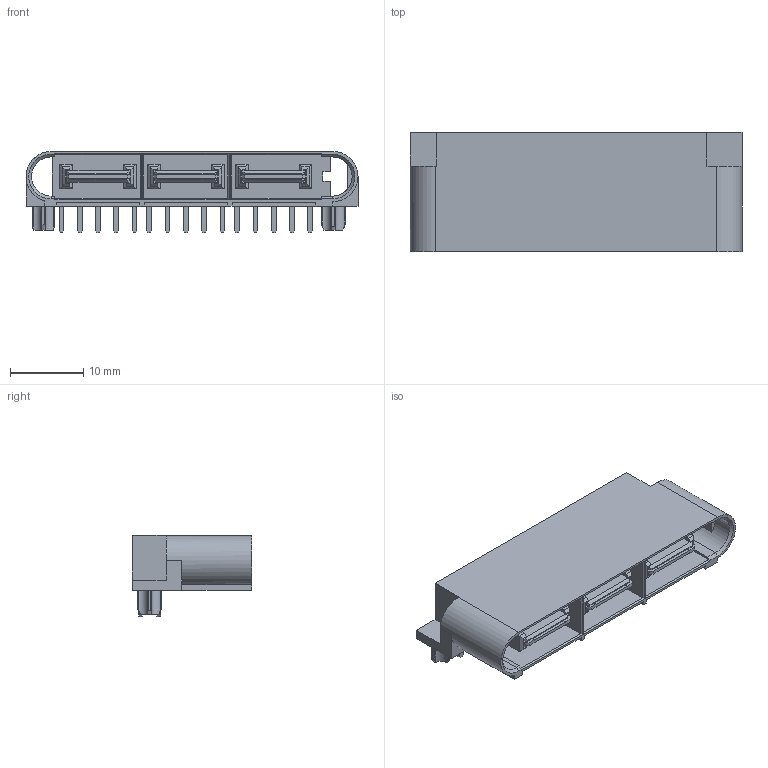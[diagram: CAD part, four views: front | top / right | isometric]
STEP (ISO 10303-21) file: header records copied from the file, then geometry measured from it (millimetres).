
FILE_DESCRIPTION((''),'2;1');
FILE_NAME('459856924','2020-10-29T',('me'),(''),'PRO/ENGINEER BY PARAMETRIC TECHNOLOGY CORPORATION, 2016010','PRO/ENGINEER BY PARAMETRIC TECHNOLOGY CORPORATION, 2016010','');
FILE_SCHEMA(('CONFIG_CONTROL_DESIGN'));
Length unit declared in the file: millimetre
Products named in the file (1): 459856924
Bounding box: 45.36 x 16.28 x 11.09 mm (x, y, z)
Volume: 3072.9 mm3; surface area: 5595.5 mm2
Topology: 1 solids, 1 shells, 533 faces, 1495 edges, 1004 vertices
Faces by surface type: plane 488, cylinder 35, cone 10
Entity records: 17047 total; most frequent: CARTESIAN_POINT 3276, ORIENTED_EDGE 2862, DIRECTION 2641, EDGE_CURVE 1431, VECTOR 1301, LINE 1301, VERTEX_POINT 940, AXIS2_PLACEMENT_3D 670
